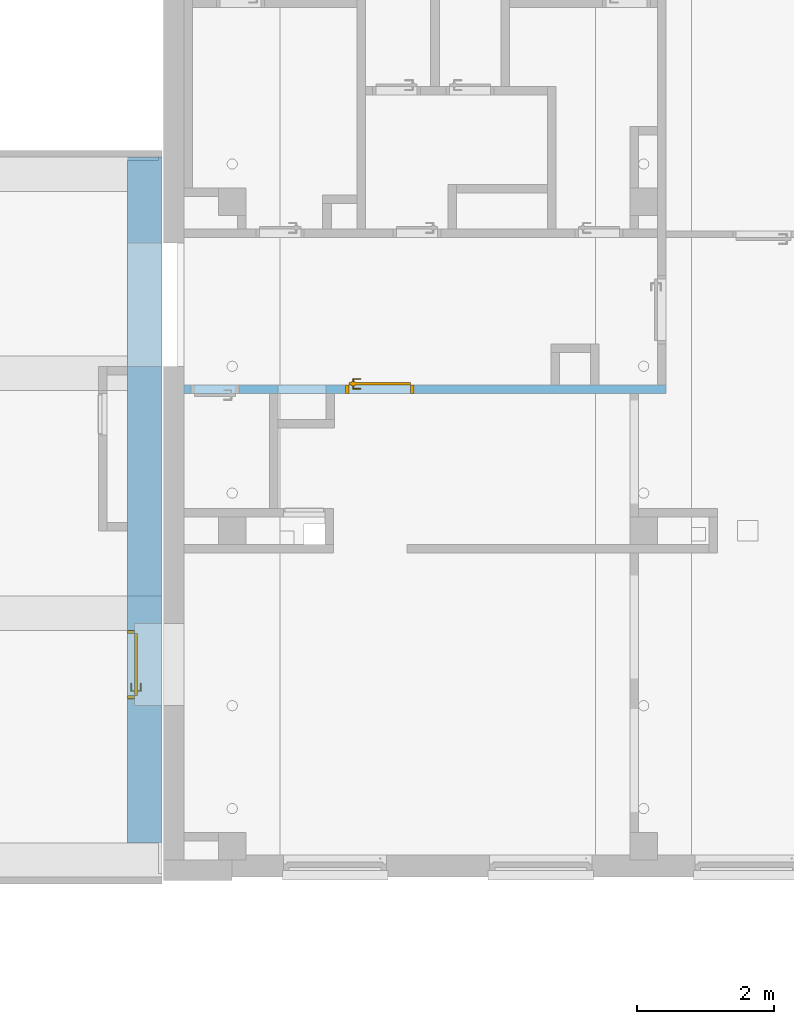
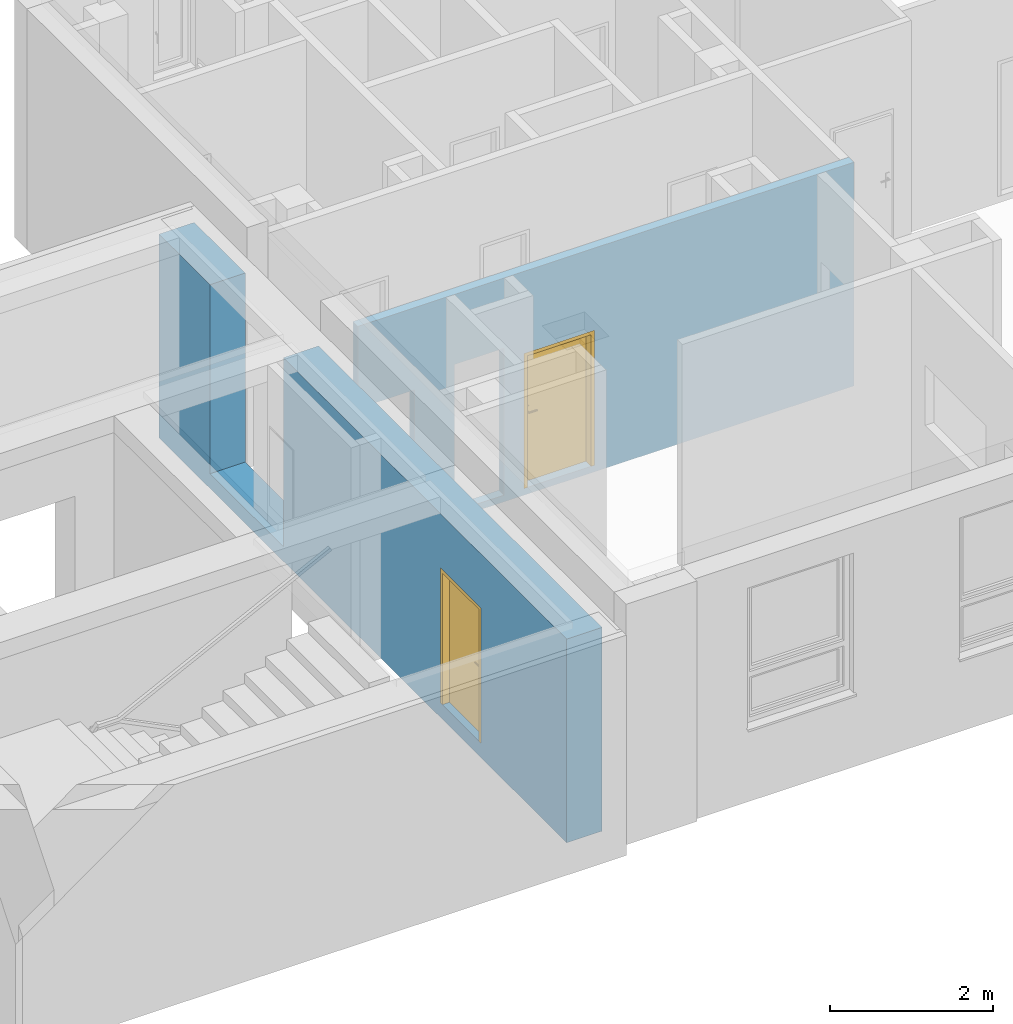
# One storey, part 33 of 50: 2 doors, 1 wall, 5 openings, plus 1 element that does not belong to this part.
"""IFC4 building model written with IfcOpenShell, lengths in metres."""

import ifcopenshell
import ifcopenshell.guid

model = None  # the IFC model being written
_history = None  # IfcOwnerHistory: only IFC2X3 demands one
_inside = {}  # id of a spatial element -> (the spatial element, [elements in it])
_under = {}  # id of a project, library or spatial element -> (it, [spatial elements below it])
_declared = {}  # id of a project -> (the project, [libraries it declares])
_typed = {}  # id of a type object -> (the type object, [elements of that type])
_made_of = {}  # id of a material, layer set ... -> (it, [elements and type objects made of it])


def new_model(schema):
    """Start an empty IFC model of exactly this schema.

    Asked for "IFC4X3", IfcOpenShell would pick the latest addendum, in which some entities
    have other attributes; the version numbers below select the first issue.
    IFC2X3 requires an IfcOwnerHistory on every rooted entity: one is made here for all.
    """
    global model, _history
    if schema == "IFC4X3":
        model = ifcopenshell.file(schema_version=(4, 3, 0, 0))
    else:
        model = ifcopenshell.file(schema=schema)
    _inside.clear()
    _under.clear()
    _declared.clear()
    _typed.clear()
    _made_of.clear()
    _history = None
    if model.schema == "IFC2X3":
        org = make("IfcOrganization", Name="unknown")
        user = make(
            "IfcPersonAndOrganization",
            ThePerson=make("IfcPerson", FamilyName="unknown"),
            TheOrganization=org,
        )
        app = make(
            "IfcApplication",
            ApplicationDeveloper=org,
            Version="unknown",
            ApplicationFullName="unknown",
            ApplicationIdentifier="unknown",
        )
        _history = make(
            "IfcOwnerHistory",
            OwningUser=user,
            OwningApplication=app,
            ChangeAction="ADDED",
            CreationDate=0,
        )
    return model


def make(cls, **values):
    """One entity of the class cls with the attributes given. An attribute that is None is left unset."""
    return model.create_entity(
        cls, **{name: value for name, value in values.items() if value is not None}
    )


def entity(cls, *values):
    """Any entity or typed value of the class cls, its attributes in the order of the schema. None: left unset."""
    e = model.create_entity(cls)
    for i, value in enumerate(values):
        if value is not None:
            e[i] = value
    return e


def rooted(cls, **values):
    """An entity with a GlobalId (a new one), such as an element, a storey or a relation."""
    return make(cls, GlobalId=ifcopenshell.guid.new(), OwnerHistory=_history, **values)


def si_unit(unit_type, name, prefix=None):
    """IfcSIUnit, for example si_unit("LENGTHUNIT", "METRE", prefix="MILLI")."""
    return make("IfcSIUnit", UnitType=unit_type, Prefix=prefix, Name=name)


def converted_unit(unit_type, name, factor, base, dimensions=None, offset=None):
    """IfcConversionBasedUnit, such as the inch: factor (a typed value) times the base unit."""
    return make(
        "IfcConversionBasedUnit"
        if offset is None
        else "IfcConversionBasedUnitWithOffset",
        ConversionOffset=offset,
        Dimensions=None
        if dimensions is None
        else entity("IfcDimensionalExponents", *dimensions),
        UnitType=unit_type,
        Name=name,
        ConversionFactor=make(
            "IfcMeasureWithUnit", ValueComponent=factor, UnitComponent=base
        ),
    )


def derived_unit(unit_type, elements):
    """IfcDerivedUnit: a product of units, each with its exponent."""
    return make(
        "IfcDerivedUnit",
        Elements=[
            make("IfcDerivedUnitElement", Unit=unit, Exponent=power)
            for unit, power in elements
        ],
        UnitType=unit_type,
    )


def assignment(units):
    """IfcUnitAssignment: the units of a project."""
    return None if units is None else make("IfcUnitAssignment", Units=units)


def point(xyz):
    """IfcCartesianPoint."""
    return None if xyz is None else make("IfcCartesianPoint", Coordinates=xyz)


def direction(xyz):
    """IfcDirection."""
    return None if xyz is None else make("IfcDirection", DirectionRatios=xyz)


def frame(location, z_axis=None, x_axis=None):
    """IfcAxis2Placement3D, a coordinate frame: its origin and axes. An axis left out is left unset."""
    return make(
        "IfcAxis2Placement3D",
        Location=point(location),
        Axis=direction(z_axis),
        RefDirection=direction(x_axis),
    )


def frame_2d(location, x_axis=None):
    """IfcAxis2Placement2D, a coordinate frame in the plane: its origin and x axis."""
    return make(
        "IfcAxis2Placement2D", Location=point(location), RefDirection=direction(x_axis)
    )


def origin():
    """The frame at (0, 0, 0) with its axes left unset."""
    return frame((0.0, 0.0, 0.0))


def origin_with_axes():
    """The frame at (0, 0, 0) with the z axis (0, 0, 1) and the x axis (1, 0, 0) written out."""
    return frame((0.0, 0.0, 0.0), z_axis=(0.0, 0.0, 1.0), x_axis=(1.0, 0.0, 0.0))


def place(relative_to, where):
    """IfcLocalPlacement: puts the frame where relative to a parent placement (None: the world)."""
    return make(
        "IfcLocalPlacement", PlacementRelTo=relative_to, RelativePlacement=where
    )


def context(
    kind, dimensions, precision=None, world=None, true_north=None, identifier=None
):
    """IfcGeometricRepresentationContext, for example the 3D "Model" context."""
    return make(
        "IfcGeometricRepresentationContext",
        ContextIdentifier=identifier,
        ContextType=kind,
        CoordinateSpaceDimension=dimensions,
        Precision=precision,
        WorldCoordinateSystem=world,
        TrueNorth=true_north,
    )


def subcontext(parent, identifier, kind, view, scale=None):
    """IfcGeometricRepresentationSubContext, for example "Body" below "Model"."""
    return make(
        "IfcGeometricRepresentationSubContext",
        ContextIdentifier=identifier,
        ContextType=kind,
        ParentContext=parent,
        TargetScale=scale,
        TargetView=view,
    )


def project(units=None, contexts=None):
    """IfcProject with its units and contexts."""
    return rooted(
        "IfcProject",
        Name="project",
        RepresentationContexts=contexts,
        UnitsInContext=assignment(units),
    )


def spatial(cls, under=None, at=None, **own):
    """A site, building, storey or space (cls), placed at a placement, below another one or the project."""
    s = rooted(cls, ObjectPlacement=at, **own)
    if under is not None:
        _under.setdefault(under.id(), (under, []))[1].append(s)
    return s


def polyline(points):
    """IfcPolyline through the points."""
    return make("IfcPolyline", Points=[point(p) for p in points])


def profile(cls, at=None, kind="AREA", **sizes):
    """A parametric profile (cls). Its sizes go by their IFC names, for example OverallWidth=200.0."""
    return make(cls, ProfileType=kind, Position=at, **sizes)


def rectangle(**sizes):
    """IfcRectangleProfileDef."""
    return profile("IfcRectangleProfileDef", **sizes)


def outline(outer, holes=None, kind="AREA"):
    """IfcArbitraryClosedProfileDef: a profile drawn as a closed curve; with holes, ...WithVoids."""
    if holes is None:
        return make("IfcArbitraryClosedProfileDef", ProfileType=kind, OuterCurve=outer)
    return make(
        "IfcArbitraryProfileDefWithVoids",
        ProfileType=kind,
        OuterCurve=outer,
        InnerCurves=holes,
    )


def extrude(swept, where, along, depth):
    """IfcExtrudedAreaSolid: the profile swept, set in the frame where, extruded along a direction by depth."""
    return make(
        "IfcExtrudedAreaSolid",
        SweptArea=swept,
        Position=where,
        ExtrudedDirection=direction(along),
        Depth=depth,
    )


def faces_of(points, faces, orient=None, outer=None):
    """IfcFace entities. A face is a list of loops; a loop is a list of indices into points, from 0.

    orient and outer hold one flag for each loop. By default every Orientation is true, the
    first loop of a face is its IfcFaceOuterBound and the others are IfcFaceBound.
    """
    made = []
    for i, loops in enumerate(faces):
        bounds = []
        for j, loop in enumerate(loops):
            is_outer = j == 0 if outer is None else outer[i][j]
            bounds.append(
                make(
                    "IfcFaceOuterBound" if is_outer else "IfcFaceBound",
                    Bound=make("IfcPolyLoop", Polygon=[points[k] for k in loop]),
                    Orientation=True if orient is None else orient[i][j],
                )
            )
        made.append(make("IfcFace", Bounds=bounds))
    return made


def closed_shell(faces, orient=None, outer=None):
    """The faces of one IfcClosedShell. faceted_brep and surface_model build it on their shared points."""
    return ("IfcClosedShell", faces, orient, outer)


def open_shell(faces, orient=None, outer=None):
    """The faces of one IfcOpenShell. surface_model builds it on its shared points."""
    return ("IfcOpenShell", faces, orient, outer)


def faceted_brep(points, faces, orient=None, outer=None, voids=None):
    """IfcFacetedBrep: a solid bounded by flat faces; with voids (closed shells), ...WithVoids."""
    shared = [point(p) for p in points]
    hull = make("IfcClosedShell", CfsFaces=faces_of(shared, faces, orient, outer))
    if voids is None:
        return make("IfcFacetedBrep", Outer=hull)
    return make(
        "IfcFacetedBrepWithVoids",
        Outer=hull,
        Voids=[
            make(cls, CfsFaces=faces_of(shared, fs, o, b)) for cls, fs, o, b in voids
        ],
    )


def surface_model(cls, points, shells):
    """IfcFaceBasedSurfaceModel or IfcShellBasedSurfaceModel (cls): surfaces that need not close."""
    shared = [point(p) for p in points]
    made = [make(c, CfsFaces=faces_of(shared, fs, o, b)) for c, fs, o, b in shells]
    if cls == "IfcFaceBasedSurfaceModel":
        return make(cls, FbsmFaces=made)
    return make(cls, SbsmBoundary=made)


def shape(context_of_items, identifier, shape_type, items):
    """IfcShapeRepresentation: the items that make up one representation, for example the "Body"."""
    return make(
        "IfcShapeRepresentation",
        ContextOfItems=context_of_items,
        RepresentationIdentifier=identifier,
        RepresentationType=shape_type,
        Items=items,
    )


def source(mapping_origin, context_of_items, identifier, shape_type, items):
    """IfcRepresentationMap: a shape defined once, which mapped items show again and again."""
    return make(
        "IfcRepresentationMap",
        MappingOrigin=mapping_origin,
        MappedRepresentation=shape(context_of_items, identifier, shape_type, items),
    )


def transform(
    local_origin,
    x_axis=None,
    y_axis=None,
    z_axis=None,
    scale=None,
    scale2=None,
    scale3=None,
    uniform=True,
):
    """IfcCartesianTransformationOperator3D, or its non-uniform kind. x_axis, y_axis, z_axis: its Axis1, 2, 3."""
    if uniform:
        return make(
            "IfcCartesianTransformationOperator3D",
            Axis1=direction(x_axis),
            Axis2=direction(y_axis),
            LocalOrigin=point(local_origin),
            Scale=scale,
            Axis3=direction(z_axis),
        )
    return make(
        "IfcCartesianTransformationOperator3DnonUniform",
        Axis1=direction(x_axis),
        Axis2=direction(y_axis),
        LocalOrigin=point(local_origin),
        Scale=scale,
        Axis3=direction(z_axis),
        Scale2=scale2,
        Scale3=scale3,
    )


def mapped(mapping_source, mapping_target):
    """IfcMappedItem: shows the shape of a source again, moved by a transform."""
    return make(
        "IfcMappedItem", MappingSource=mapping_source, MappingTarget=mapping_target
    )


def material(Name=None, Category=None):
    """IfcMaterial."""
    return make("IfcMaterial", Name=Name, Category=Category)


def layer(
    of_material, thickness, ventilated=None, Name=None, Category=None, Priority=None
):
    """IfcMaterialLayer: one layer of a wall or slab, of a material (None: an air gap)."""
    return make(
        "IfcMaterialLayer",
        Material=of_material,
        LayerThickness=thickness,
        IsVentilated=ventilated,
        Name=Name,
        Category=Category,
        Priority=Priority,
    )


def layer_set(layers, Name=None):
    """IfcMaterialLayerSet."""
    return make("IfcMaterialLayerSet", MaterialLayers=layers, LayerSetName=Name)


def layer_usage(for_layer_set, set_direction, sense, offset, extent=None):
    """IfcMaterialLayerSetUsage: how a layer set lies in its element."""
    return make(
        "IfcMaterialLayerSetUsage",
        ForLayerSet=for_layer_set,
        LayerSetDirection=set_direction,
        DirectionSense=sense,
        OffsetFromReferenceLine=offset,
        ReferenceExtent=extent,
    )


def made_of(thing, what):
    """Note that an element or type object is made of a material, layer set ...; save() writes the relation."""
    if what is not None:
        _made_of.setdefault(what.id(), (what, []))[1].append(thing)
    return thing


def type_object(cls, material=None, **own):
    """A type object (cls), such as IfcWallType, which elements share."""
    return made_of(rooted(cls, **own), material)


def element(
    cls,
    number,
    at=None,
    inside=None,
    cuts=None,
    type_object=None,
    material=None,
    context=None,
    identifier="Body",
    shape_type=None,
    held_by="IfcProductDefinitionShape",
    body=None,
    shapes=None,
    **own,
):
    """One element of the class cls, such as IfcWall. Its Tag is "e" and its number.

    at: its placement. inside: the storey or other place that contains it. cuts: it is an
    opening in that element (IfcRelVoidsElement). A single representation is given by context,
    identifier, shape_type and body (its items); several are given by shapes. held_by: the class
    of the entity that holds the representations. save() writes the other relations.
    """
    e = rooted(cls, Tag="e%d" % number, ObjectPlacement=at, **own)
    if body is not None:
        shapes = [shape(context, identifier, shape_type, body)]
    if shapes is not None:
        e.Representation = make(held_by, Representations=shapes)
    if inside is not None:
        _inside.setdefault(inside.id(), (inside, []))[1].append(e)
    if cuts is not None:
        rooted(
            "IfcRelVoidsElement", RelatingBuildingElement=cuts, RelatedOpeningElement=e
        )
    if type_object is not None:
        _typed.setdefault(type_object.id(), (type_object, []))[1].append(e)
    return made_of(e, material)


def fill(opening, filler):
    """IfcRelFillsElement: the door or window that sits in an opening."""
    return rooted(
        "IfcRelFillsElement",
        RelatingOpeningElement=opening,
        RelatedBuildingElement=filler,
    )


def aggregate(whole, parts):
    """IfcRelAggregates: a whole, such as a stair, and the parts it consists of."""
    return rooted("IfcRelAggregates", RelatingObject=whole, RelatedObjects=parts)


def save(model, path):
    """Write the relations noted so far, then the file.

    IfcRelAggregates (storeys below a building ...), IfcRelContainedInSpatialStructure (elements
    in a storey), IfcRelDefinesByType, IfcRelAssociatesMaterial and IfcRelDeclares: one each for
    every whole, place, type object, material and project.
    """
    for whole, parts in _under.values():
        aggregate(whole, parts)
    for where, things in _inside.values():
        rooted(
            "IfcRelContainedInSpatialStructure",
            RelatedElements=things,
            RelatingStructure=where,
        )
    for kind, things in _typed.values():
        rooted("IfcRelDefinesByType", RelatedObjects=things, RelatingType=kind)
    for what, things in _made_of.values():
        rooted("IfcRelAssociatesMaterial", RelatedObjects=things, RelatingMaterial=what)
    for by, libraries in _declared.values():
        rooted("IfcRelDeclares", RelatingContext=by, RelatedDefinitions=libraries)
    model.write(path)


model = new_model("IFC4")

# Units and contexts
model_context = context("Model", 3, precision=1e-05, world=origin())
body_context = subcontext(model_context, "Body", "Model", "MODEL_VIEW")
ifc_project = project(units=[si_unit("LENGTHUNIT", "METRE"), si_unit("AREAUNIT", "SQUARE_METRE"), si_unit("VOLUMEUNIT", "CUBIC_METRE"), si_unit("MASSUNIT", "GRAM", prefix="KILO"), converted_unit("PLANEANGLEUNIT", "DEGREE", entity("IfcPlaneAngleMeasure", 0.0174532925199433), si_unit("PLANEANGLEUNIT", "RADIAN"), dimensions=[0, 0, 0, 0, 0, 0, 0]), derived_unit("THERMALTRANSMITTANCEUNIT", [(si_unit("POWERUNIT", "WATT"), 1), (si_unit("THERMODYNAMICTEMPERATUREUNIT", "KELVIN"), -1), (si_unit("LENGTHUNIT", "METRE"), -2)]), derived_unit("VOLUMETRICFLOWRATEUNIT", [(si_unit("LENGTHUNIT", "METRE"), 3), (converted_unit("TIMEUNIT", "hour", entity("IfcTimeMeasure", 3600.0), si_unit("TIMEUNIT", "SECOND"), dimensions=[0, 0, 1, 0, 0, 0, 0]), -1), (si_unit("LENGTHUNIT", "METRE"), -1)])], contexts=[model_context])

# Site, building, storey
site_placement = place(None, origin())
site = spatial("IfcSite", under=ifc_project, at=site_placement, Name="3. ASŘ", CompositionType="ELEMENT")
building_placement = place(site_placement, origin())
building = spatial("IfcBuilding", under=site, at=building_placement, Name="Pavilon C", CompositionType="ELEMENT")
storey_placement = place(building_placement, frame((0.0, 0.0, 3.6)))
storey = spatial("IfcBuildingStorey", under=building, at=storey_placement, Name="Půdorys 2.NP", CompositionType="ELEMENT", Elevation=3.6)

# Wall, openings, door
ifc_material_1 = material(Name="ZDIVO Z CDm")
wall_1_placement = place(storey_placement, frame((-1.525, 0.850000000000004, -0.22)))
wall_1 = element("IfcWall", 1, at=wall_1_placement, inside=storey, material=ifc_material_1, Name="ZDIVO Z CDm", context=body_context, shape_type="Brep", body=[
    faceted_brep([(0.500000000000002, 1.99999999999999, 2.32), (0.500000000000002, 3.19999999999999, 2.32), (0.100000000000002, 3.19999999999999, 2.32), (0.100000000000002, 1.99999999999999, 2.32), (0.100000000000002, 1.99999999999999, 0.22), (0.500000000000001, 1.99999999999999, 0.22), (0.500000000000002, 3.19999999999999, 0.22), (0.100000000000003, 3.19999999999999, 0.22), (0.100000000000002, 2.09999999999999, 2.24), (0.100000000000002, 2.09999999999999, 0.22), (0.100000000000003, 3.09999999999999, 0.22), (0.100000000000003, 3.09999999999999, 2.24), (0.500000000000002, 2.09999999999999, 2.24), (0.500000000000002, 2.09999999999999, 0.22), (0.500000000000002, 3.09999999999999, 2.24), (0.500000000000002, 3.09999999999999, 0.22), (0.0, 9.09494701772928e-16, 0.0), (7.27595761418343e-15, 10.0, 0.0), (7.27595761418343e-15, 10.0, 3.05), (0.0, 9.09494701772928e-16, 3.05), (0.500000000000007, 10.0, 0.0), (0.500000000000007, 10.0, 3.05), (0.5, 9.09494701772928e-16, 0.0), (0.5, 9.09494701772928e-16, 3.05)], [[[0, 1, 2, 3]], [[4, 5, 0, 3]], [[6, 7, 2, 1]], [[8, 9, 4, 3, 2, 7, 10, 11]], [[12, 13, 9, 8]], [[5, 4, 9, 13]], [[14, 12, 8, 11]], [[11, 10, 15, 14]], [[7, 6, 15, 10]], [[16, 17, 18, 19]], [[17, 20, 21, 18]], [[20, 22, 23, 21], [5, 13, 12, 14, 15, 6, 1, 0]], [[22, 16, 19, 23]], [[23, 19, 18, 21]], [[16, 22, 20, 17]]], orient=[[False], [False], [False], [False], [False], [False], [False], [False], [False], [False], [False], [False, False], [False], [False], [False]]),
])
opening_1_placement = place(wall_1_placement, frame((2.27373675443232e-15, 3.09999999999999, 0.22), z_axis=(1.0, -9.09494701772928e-16, 0.0), x_axis=(0.0, 0.0, 1.0)))
opening_1 = element("IfcOpeningElement", 2, at=opening_1_placement, cuts=wall_1, Name="Dveřní otvor", ObjectType="Opening", context=body_context, shape_type="SweptSolid", body=[
    extrude(outline(polyline([(0.0, 1.0), (2.02, 1.0), (2.02, 0.0), (0.0, 0.0), (0.0, 1.0)])), origin_with_axes(), (0.0, 0.0, 1.0), 0.5),
])
opening_2_placement = place(wall_1_placement, frame((6.3664629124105e-15, 8.74999999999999, 0.22), z_axis=(1.0, 0.0, 0.0), x_axis=(0.0, 0.0, 1.0)))
element("IfcOpeningElement", 3, at=opening_2_placement, cuts=wall_1, Name="Dveřní otvor", ObjectType="Opening", context=body_context, shape_type="SweptSolid", body=[
    extrude(outline(polyline([(0.0, 1.8), (3.25, 1.8), (3.25, 0.0), (0.0, 0.0), (0.0, 1.8)])), origin_with_axes(), (0.0, 0.0, 1.0), 0.5),
])
door_type_1 = type_object("IfcDoorType", Name="D101", OperationType="NOTDEFINED", ParameterTakesPrecedence=False, PredefinedType="DOOR")
shared_shape_1 = source(origin_with_axes(), body_context, "Body", "SurfaceModel", [
    surface_model("IfcShellBasedSurfaceModel", [(0.0, 0.100000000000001, 2.02), (0.0, 0.100000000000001, -6.12323399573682e-18), (0.05, 0.100000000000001, -6.12323399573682e-18), (0.05, 0.100000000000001, 2.02), (0.0, 0.0, 6.12323399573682e-18), (0.0, 2.41584530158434e-16, 2.02), (0.05, 2.41584530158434e-16, 2.02), (0.05, 0.0, 6.12323399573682e-18)], [closed_shell([[[0, 1, 2, 3]], [[4, 5, 6, 7]], [[1, 0, 5, 4]], [[2, 1, 4, 7]], [[3, 2, 7, 6]], [[0, 3, 6, 5]]], orient=[[False], [False], [False], [False], [False], [False]])]),
    surface_model("IfcShellBasedSurfaceModel", [(0.950000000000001, 0.100000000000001, 2.02), (0.950000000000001, 0.100000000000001, -6.12323399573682e-18), (1.0, 0.100000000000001, -6.12323399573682e-18), (1.0, 0.100000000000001, 2.02), (0.950000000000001, 0.0, 6.12323399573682e-18), (0.950000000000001, 2.41584530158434e-16, 2.02), (1.0, 2.41584530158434e-16, 2.02), (1.0, 0.0, 6.12323399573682e-18)], [closed_shell([[[0, 1, 2, 3]], [[4, 5, 6, 7]], [[1, 0, 5, 4]], [[2, 1, 4, 7]], [[3, 2, 7, 6]], [[0, 3, 6, 5]]], orient=[[False], [False], [False], [False], [False], [False]])]),
    surface_model("IfcShellBasedSurfaceModel", [(0.05, 0.100000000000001, 2.02), (0.05, 0.100000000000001, 1.97), (0.95, 0.100000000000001, 1.97), (0.95, 0.100000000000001, 2.02), (0.05, 2.41584530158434e-16, 1.97), (0.05, 2.41584530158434e-16, 2.02), (0.95, 2.41584530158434e-16, 2.02), (0.95, 2.41584530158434e-16, 1.97)], [closed_shell([[[0, 1, 2, 3]], [[4, 5, 6, 7]], [[1, 0, 5, 4]], [[2, 1, 4, 7]], [[3, 2, 7, 6]], [[0, 3, 6, 5]]], orient=[[False], [False], [False], [False], [False], [False]])]),
    surface_model("IfcShellBasedSurfaceModel", [(0.05, 0.140000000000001, 1.97), (0.05, 0.140000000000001, -1.10218211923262e-17), (0.95, 0.140000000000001, -1.10218211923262e-17), (0.95, 0.140000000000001, 1.97), (0.05, 0.100000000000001, -6.12323399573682e-18), (0.05, 0.100000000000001, 1.97), (0.95, 0.100000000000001, 1.97), (0.95, 0.100000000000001, -6.12323399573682e-18)], [closed_shell([[[0, 1, 2, 3]], [[4, 5, 6, 7]], [[1, 0, 5, 4]], [[2, 1, 4, 7]], [[3, 2, 7, 6]], [[0, 3, 6, 5]]], orient=[[False], [False], [False], [False], [False], [False]])]),
    surface_model("IfcShellBasedSurfaceModel", [(0.86, 0.100000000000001, 1.125), (0.86, 0.100000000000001, 0.91), (0.91, 0.100000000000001, 0.91), (0.91, 0.100000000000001, 1.125), (0.86, 0.090000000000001, 0.91), (0.86, 0.0900000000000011, 1.125), (0.91, 0.0900000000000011, 1.125), (0.91, 0.090000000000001, 0.91)], [closed_shell([[[0, 1, 2, 3]], [[4, 5, 6, 7]], [[1, 0, 5, 4]], [[2, 1, 4, 7]], [[3, 2, 7, 6]], [[0, 3, 6, 5]]], orient=[[False], [False], [False], [False], [False], [False]])]),
    surface_model("IfcShellBasedSurfaceModel", [(0.885, 0.090000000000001, 1.06), (0.88, 0.090000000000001, 1.05866025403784), (0.876339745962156, 0.090000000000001, 1.055), (0.875, 0.090000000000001, 1.05), (0.876339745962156, 0.090000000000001, 1.045), (0.88, 0.090000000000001, 1.04133974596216), (0.885, 0.090000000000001, 1.04), (0.89, 0.090000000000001, 1.04133974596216), (0.893660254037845, 0.090000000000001, 1.045), (0.895, 0.090000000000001, 1.05), (0.893660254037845, 0.090000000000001, 1.055), (0.89, 0.090000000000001, 1.05866025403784), (0.89, 0.0450000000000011, 1.05866025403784), (0.885, 0.0500000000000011, 1.06), (0.893660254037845, 0.0413397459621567, 1.055), (0.895, 0.0400000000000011, 1.05), (0.893660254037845, 0.0413397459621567, 1.045), (0.89, 0.0450000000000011, 1.04133974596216), (0.885, 0.0500000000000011, 1.04), (0.88, 0.0550000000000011, 1.04133974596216), (0.876339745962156, 0.0586602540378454, 1.045), (0.875, 0.0600000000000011, 1.05), (0.876339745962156, 0.0586602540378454, 1.055), (0.88, 0.0550000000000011, 1.05866025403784), (0.77, 0.045000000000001, 1.05866025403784), (0.77, 0.050000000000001, 1.06), (0.77, 0.0413397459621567, 1.055), (0.77, 0.040000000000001, 1.05), (0.77, 0.0413397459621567, 1.045), (0.77, 0.045000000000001, 1.04133974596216), (0.77, 0.050000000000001, 1.04), (0.77, 0.055000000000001, 1.04133974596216), (0.77, 0.0586602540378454, 1.045), (0.77, 0.060000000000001, 1.05), (0.77, 0.0586602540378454, 1.055), (0.77, 0.0550000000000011, 1.05866025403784)], [open_shell([[[0, 1, 2, 3, 4, 5, 6, 7, 8, 9, 10, 11]], [[0, 11, 12, 13]], [[11, 10, 14, 12]], [[10, 9, 15, 14]], [[9, 8, 16, 15]], [[8, 7, 17, 16]], [[7, 6, 18, 17]], [[6, 5, 19, 18]], [[5, 4, 20, 19]], [[4, 3, 21, 20]], [[3, 2, 22, 21]], [[2, 1, 23, 22]], [[1, 0, 13, 23]], [[13, 12, 24, 25]], [[12, 14, 26, 24]], [[14, 15, 27, 26]], [[15, 16, 28, 27]], [[16, 17, 29, 28]], [[17, 18, 30, 29]], [[18, 19, 31, 30]], [[19, 20, 32, 31]], [[20, 21, 33, 32]], [[21, 22, 34, 33]], [[22, 23, 35, 34]], [[23, 13, 25, 35]]], orient=[[False], [False], [False], [False], [False], [False], [False], [False], [False], [False], [False], [False], [False], [False], [False], [False], [False], [False], [False], [False], [False], [False], [False], [False], [False]])]),
    surface_model("IfcShellBasedSurfaceModel", [(0.86, 0.140000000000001, 1.125), (0.91, 0.140000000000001, 1.125), (0.91, 0.140000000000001, 0.91), (0.86, 0.140000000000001, 0.91), (0.86, 0.150000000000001, 0.91), (0.91, 0.150000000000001, 0.91), (0.91, 0.150000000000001, 1.125), (0.86, 0.150000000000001, 1.125)], [closed_shell([[[0, 1, 2, 3]], [[4, 5, 6, 7]], [[3, 4, 7, 0]], [[2, 5, 4, 3]], [[1, 6, 5, 2]], [[0, 7, 6, 1]]], orient=[[False], [False], [False], [False], [False], [False]])]),
    surface_model("IfcShellBasedSurfaceModel", [(0.885, 0.150000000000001, 1.06), (0.89, 0.150000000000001, 1.05866025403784), (0.893660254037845, 0.150000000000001, 1.055), (0.895, 0.150000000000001, 1.05), (0.893660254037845, 0.150000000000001, 1.045), (0.89, 0.150000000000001, 1.04133974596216), (0.885, 0.150000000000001, 1.04), (0.88, 0.150000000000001, 1.04133974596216), (0.876339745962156, 0.150000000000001, 1.045), (0.875, 0.150000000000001, 1.05), (0.876339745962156, 0.150000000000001, 1.055), (0.88, 0.150000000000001, 1.05866025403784), (0.885, 0.190000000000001, 1.06), (0.89, 0.195000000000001, 1.05866025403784), (0.893660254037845, 0.198660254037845, 1.055), (0.895, 0.200000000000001, 1.05), (0.893660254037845, 0.198660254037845, 1.045), (0.89, 0.195000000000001, 1.04133974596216), (0.885, 0.190000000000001, 1.04), (0.88, 0.185000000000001, 1.04133974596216), (0.876339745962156, 0.181339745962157, 1.045), (0.875, 0.180000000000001, 1.05), (0.876339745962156, 0.181339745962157, 1.055), (0.88, 0.185000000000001, 1.05866025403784), (0.77, 0.190000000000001, 1.06), (0.77, 0.195000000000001, 1.05866025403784), (0.77, 0.198660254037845, 1.055), (0.77, 0.200000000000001, 1.05), (0.77, 0.198660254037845, 1.045), (0.77, 0.195000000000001, 1.04133974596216), (0.77, 0.190000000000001, 1.04), (0.77, 0.185000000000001, 1.04133974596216), (0.77, 0.181339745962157, 1.045), (0.77, 0.180000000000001, 1.05), (0.77, 0.181339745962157, 1.055), (0.77, 0.185000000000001, 1.05866025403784)], [open_shell([[[0, 1, 2, 3, 4, 5, 6, 7, 8, 9, 10, 11]], [[0, 12, 13, 1]], [[1, 13, 14, 2]], [[2, 14, 15, 3]], [[3, 15, 16, 4]], [[4, 16, 17, 5]], [[5, 17, 18, 6]], [[6, 18, 19, 7]], [[7, 19, 20, 8]], [[8, 20, 21, 9]], [[9, 21, 22, 10]], [[10, 22, 23, 11]], [[11, 23, 12, 0]], [[12, 24, 25, 13]], [[13, 25, 26, 14]], [[14, 26, 27, 15]], [[15, 27, 28, 16]], [[16, 28, 29, 17]], [[17, 29, 30, 18]], [[18, 30, 31, 19]], [[19, 31, 32, 20]], [[20, 32, 33, 21]], [[21, 33, 34, 22]], [[22, 34, 35, 23]], [[23, 35, 24, 12]]], orient=[[False], [False], [False], [False], [False], [False], [False], [False], [False], [False], [False], [False], [False], [False], [False], [False], [False], [False], [False], [False], [False], [False], [False], [False], [False]])]),
])
door_1_placement = place(opening_1_placement, frame((0.0, 4.54747350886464e-16, -2.27373675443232e-16), z_axis=(1.0, 0.0, 0.0), x_axis=(0.0, 1.0, 1.03195938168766e-15)))
door_1 = element("IfcDoor", 4, at=door_1_placement, inside=storey, type_object=door_type_1, Name="D101", OverallHeight=2.02, OverallWidth=1.0, context=body_context, shape_type="MappedRepresentation", body=[
    mapped(shared_shape_1, transform((0.0, 0.0, 0.0), x_axis=(1.0, 0.0, 0.0), y_axis=(0.0, 1.0, 0.0), z_axis=(0.0, 0.0, 1.0), scale=1.0)),
])
fill(opening_1, door_1)

ifc_material_2 = material(Name="ZDIVO Z CDm")
ifc_layer = layer(ifc_material_2, 0.125)
ifc_layer_set = layer_set([ifc_layer])
ifc_layer_usage = layer_usage(ifc_layer_set, "AXIS2", "POSITIVE", 0.0)
wall_2_placement = place(storey_placement, frame((6.32500000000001, 7.525, -0.1), z_axis=(0.0, 0.0, 1.0), x_axis=(-1.0, 0.0, 0.0)))
wall_2 = element("IfcWall", 5, at=wall_2_placement, inside=storey, material=ifc_layer_usage, Name="ZDIVO Z CDm", context=body_context, shape_type="SweptSolid", body=[
    extrude(rectangle(XDim=7.02500000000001, YDim=0.125, at=frame_2d((3.5125, 0.0625), x_axis=(1.0, 0.0))), origin_with_axes(), (0.0, 0.0, 1.0), 3.35),
])
opening_3_placement = place(wall_2_placement, frame((3.67499999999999, 0.0, 0.1), z_axis=(0.0, 1.0, 0.0), x_axis=(0.0, 0.0, 1.0)))
opening_3 = element("IfcOpeningElement", 6, at=opening_3_placement, cuts=wall_2, Name="Dveřní otvor", ObjectType="Opening", context=body_context, shape_type="SweptSolid", body=[
    extrude(outline(polyline([(0.0, 1.0), (2.02, 1.0), (2.02, 0.0), (0.0, 0.0), (0.0, 1.0)])), origin_with_axes(), (0.0, 0.0, 1.0), 0.125),
])
opening_4_placement = place(wall_2_placement, frame((4.95500000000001, 0.0, 0.1), z_axis=(0.0, 1.0, 0.0), x_axis=(0.0, 0.0, 1.0)))
element("IfcOpeningElement", 7, at=opening_4_placement, cuts=wall_2, Name="Dveřní otvor", ObjectType="Opening", context=body_context, shape_type="SweptSolid", body=[
    extrude(outline(polyline([(0.0, 0.7), (2.2, 0.7), (2.2, 0.0), (0.0, 0.0), (0.0, 0.7)])), origin_with_axes(), (0.0, 0.0, 1.0), 0.125),
])
opening_5_placement = place(wall_2_placement, frame((6.92500000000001, 0.125, 0.1), z_axis=(0.0, -1.0, 0.0), x_axis=(0.0, 0.0, 1.0)))
element("IfcOpeningElement", 8, at=opening_5_placement, cuts=wall_2, Name="Dveřní otvor", ObjectType="Opening", context=body_context, shape_type="SweptSolid", body=[
    extrude(outline(polyline([(0.0, 0.7), (2.02, 0.7), (2.02, 0.0), (0.0, 0.0), (0.0, 0.7)])), origin_with_axes(), (0.0, 0.0, 1.0), 0.125),
])
door_type_2 = type_object("IfcDoorType", Name="D101", OperationType="NOTDEFINED", ParameterTakesPrecedence=False, PredefinedType="DOOR")
shared_shape_2 = source(origin_with_axes(), body_context, "Body", "SurfaceModel", [
    surface_model("IfcShellBasedSurfaceModel", [(0.0, 0.125, 2.02), (0.0, 0.125, -7.65404249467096e-18), (0.05, 0.125, -7.65404249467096e-18), (0.05, 0.125, 2.02), (0.0, 0.0, 7.65404249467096e-18), (0.0, 2.41584530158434e-16, 2.02), (0.05, 2.41584530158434e-16, 2.02), (0.05, 0.0, 7.65404249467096e-18)], [closed_shell([[[0, 1, 2, 3]], [[4, 5, 6, 7]], [[1, 0, 5, 4]], [[2, 1, 4, 7]], [[3, 2, 7, 6]], [[0, 3, 6, 5]]], orient=[[False], [False], [False], [False], [False], [False]])]),
    surface_model("IfcShellBasedSurfaceModel", [(0.95, 0.125, 2.02), (0.95, 0.125, -7.65404249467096e-18), (1.0, 0.125, -7.65404249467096e-18), (1.0, 0.125, 2.02), (0.95, 0.0, 7.65404249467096e-18), (0.95, 2.41584530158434e-16, 2.02), (1.0, 2.41584530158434e-16, 2.02), (1.0, 0.0, 7.65404249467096e-18)], [closed_shell([[[0, 1, 2, 3]], [[4, 5, 6, 7]], [[1, 0, 5, 4]], [[2, 1, 4, 7]], [[3, 2, 7, 6]], [[0, 3, 6, 5]]], orient=[[False], [False], [False], [False], [False], [False]])]),
    surface_model("IfcShellBasedSurfaceModel", [(0.05, 0.125, 2.02), (0.05, 0.125, 1.97), (0.95, 0.125, 1.97), (0.95, 0.125, 2.02), (0.05, 2.41584530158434e-16, 1.97), (0.05, 2.41584530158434e-16, 2.02), (0.95, 2.41584530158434e-16, 2.02), (0.95, 2.41584530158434e-16, 1.97)], [closed_shell([[[0, 1, 2, 3]], [[4, 5, 6, 7]], [[1, 0, 5, 4]], [[2, 1, 4, 7]], [[3, 2, 7, 6]], [[0, 3, 6, 5]]], orient=[[False], [False], [False], [False], [False], [False]])]),
    surface_model("IfcShellBasedSurfaceModel", [(0.05, 0.165, 1.97), (0.05, 0.165, -1.25526296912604e-17), (0.95, 0.165, -1.25526296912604e-17), (0.95, 0.165, 1.97), (0.05, 0.125, -7.65404249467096e-18), (0.05, 0.125, 1.97), (0.95, 0.125, 1.97), (0.95, 0.125, -7.65404249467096e-18)], [closed_shell([[[0, 1, 2, 3]], [[4, 5, 6, 7]], [[1, 0, 5, 4]], [[2, 1, 4, 7]], [[3, 2, 7, 6]], [[0, 3, 6, 5]]], orient=[[False], [False], [False], [False], [False], [False]])]),
    surface_model("IfcShellBasedSurfaceModel", [(0.86, 0.125, 1.125), (0.86, 0.125, 0.91), (0.91, 0.125, 0.91), (0.91, 0.125, 1.125), (0.86, 0.115, 0.91), (0.86, 0.115, 1.125), (0.91, 0.115, 1.125), (0.91, 0.115, 0.91)], [closed_shell([[[0, 1, 2, 3]], [[4, 5, 6, 7]], [[1, 0, 5, 4]], [[2, 1, 4, 7]], [[3, 2, 7, 6]], [[0, 3, 6, 5]]], orient=[[False], [False], [False], [False], [False], [False]])]),
    surface_model("IfcShellBasedSurfaceModel", [(0.885, 0.115, 1.06), (0.88, 0.115, 1.05866025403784), (0.876339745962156, 0.115, 1.055), (0.875, 0.115, 1.05), (0.876339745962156, 0.115, 1.045), (0.88, 0.115, 1.04133974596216), (0.885, 0.115, 1.04), (0.89, 0.115, 1.04133974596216), (0.893660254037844, 0.115, 1.045), (0.895, 0.115, 1.05), (0.893660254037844, 0.115, 1.055), (0.89, 0.115, 1.05866025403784), (0.89, 0.0700000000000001, 1.05866025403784), (0.885, 0.0750000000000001, 1.06), (0.893660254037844, 0.0663397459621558, 1.055), (0.895, 0.0650000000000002, 1.05), (0.893660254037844, 0.0663397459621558, 1.045), (0.89, 0.0700000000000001, 1.04133974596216), (0.885, 0.0750000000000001, 1.04), (0.88, 0.0800000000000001, 1.04133974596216), (0.876339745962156, 0.0836602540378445, 1.045), (0.875, 0.0850000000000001, 1.05), (0.876339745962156, 0.0836602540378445, 1.055), (0.88, 0.0800000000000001, 1.05866025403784), (0.77, 0.0700000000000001, 1.05866025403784), (0.77, 0.0750000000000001, 1.06), (0.77, 0.0663397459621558, 1.055), (0.77, 0.0650000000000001, 1.05), (0.77, 0.0663397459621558, 1.045), (0.77, 0.0700000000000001, 1.04133974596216), (0.77, 0.0750000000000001, 1.04), (0.77, 0.0800000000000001, 1.04133974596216), (0.77, 0.0836602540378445, 1.045), (0.77, 0.0850000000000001, 1.05), (0.77, 0.0836602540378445, 1.055), (0.77, 0.0800000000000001, 1.05866025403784)], [open_shell([[[0, 1, 2, 3, 4, 5, 6, 7, 8, 9, 10, 11]], [[0, 11, 12, 13]], [[11, 10, 14, 12]], [[10, 9, 15, 14]], [[9, 8, 16, 15]], [[8, 7, 17, 16]], [[7, 6, 18, 17]], [[6, 5, 19, 18]], [[5, 4, 20, 19]], [[4, 3, 21, 20]], [[3, 2, 22, 21]], [[2, 1, 23, 22]], [[1, 0, 13, 23]], [[13, 12, 24, 25]], [[12, 14, 26, 24]], [[14, 15, 27, 26]], [[15, 16, 28, 27]], [[16, 17, 29, 28]], [[17, 18, 30, 29]], [[18, 19, 31, 30]], [[19, 20, 32, 31]], [[20, 21, 33, 32]], [[21, 22, 34, 33]], [[22, 23, 35, 34]], [[23, 13, 25, 35]]], orient=[[False], [False], [False], [False], [False], [False], [False], [False], [False], [False], [False], [False], [False], [False], [False], [False], [False], [False], [False], [False], [False], [False], [False], [False], [False]])]),
    surface_model("IfcShellBasedSurfaceModel", [(0.86, 0.165, 1.125), (0.91, 0.165, 1.125), (0.91, 0.165, 0.91), (0.86, 0.165, 0.91), (0.86, 0.175, 0.91), (0.91, 0.175, 0.91), (0.91, 0.175, 1.125), (0.86, 0.175, 1.125)], [closed_shell([[[0, 1, 2, 3]], [[4, 5, 6, 7]], [[3, 4, 7, 0]], [[2, 5, 4, 3]], [[1, 6, 5, 2]], [[0, 7, 6, 1]]], orient=[[False], [False], [False], [False], [False], [False]])]),
    surface_model("IfcShellBasedSurfaceModel", [(0.885, 0.175, 1.06), (0.89, 0.175, 1.05866025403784), (0.893660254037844, 0.175, 1.055), (0.895, 0.175, 1.05), (0.893660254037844, 0.175, 1.045), (0.89, 0.175, 1.04133974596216), (0.885, 0.175, 1.04), (0.88, 0.175, 1.04133974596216), (0.876339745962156, 0.175, 1.045), (0.875, 0.175, 1.05), (0.876339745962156, 0.175, 1.055), (0.88, 0.175, 1.05866025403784), (0.885, 0.215, 1.06), (0.89, 0.22, 1.05866025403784), (0.893660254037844, 0.223660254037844, 1.055), (0.895, 0.225, 1.05), (0.893660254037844, 0.223660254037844, 1.045), (0.89, 0.22, 1.04133974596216), (0.885, 0.215, 1.04), (0.88, 0.21, 1.04133974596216), (0.876339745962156, 0.206339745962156, 1.045), (0.875, 0.205, 1.05), (0.876339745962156, 0.206339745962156, 1.055), (0.88, 0.21, 1.05866025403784), (0.77, 0.215, 1.06), (0.77, 0.22, 1.05866025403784), (0.77, 0.223660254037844, 1.055), (0.77, 0.225, 1.05), (0.77, 0.223660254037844, 1.045), (0.77, 0.22, 1.04133974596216), (0.77, 0.215, 1.04), (0.77, 0.21, 1.04133974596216), (0.77, 0.206339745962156, 1.045), (0.77, 0.205, 1.05), (0.77, 0.206339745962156, 1.055), (0.77, 0.21, 1.05866025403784)], [open_shell([[[0, 1, 2, 3, 4, 5, 6, 7, 8, 9, 10, 11]], [[0, 12, 13, 1]], [[1, 13, 14, 2]], [[2, 14, 15, 3]], [[3, 15, 16, 4]], [[4, 16, 17, 5]], [[5, 17, 18, 6]], [[6, 18, 19, 7]], [[7, 19, 20, 8]], [[8, 20, 21, 9]], [[9, 21, 22, 10]], [[10, 22, 23, 11]], [[11, 23, 12, 0]], [[12, 24, 25, 13]], [[13, 25, 26, 14]], [[14, 26, 27, 15]], [[15, 27, 28, 16]], [[16, 28, 29, 17]], [[17, 29, 30, 18]], [[18, 30, 31, 19]], [[19, 31, 32, 20]], [[20, 32, 33, 21]], [[21, 33, 34, 22]], [[22, 34, 35, 23]], [[23, 35, 24, 12]]], orient=[[False], [False], [False], [False], [False], [False], [False], [False], [False], [False], [False], [False], [False], [False], [False], [False], [False], [False], [False], [False], [False], [False], [False], [False], [False]])]),
])
door_2_placement = place(opening_3_placement, frame((0.0, 0.0, 0.125), z_axis=(1.0, 0.0, 0.0), x_axis=(0.0, 1.0, -2.44929359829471e-16)))
door_2 = element("IfcDoor", 9, at=door_2_placement, inside=storey, type_object=door_type_2, Name="D101", OverallHeight=2.02, OverallWidth=1.0, context=body_context, shape_type="MappedRepresentation", body=[
    mapped(shared_shape_2, transform((0.0, 0.0, 0.0), x_axis=(1.0, 0.0, 0.0), y_axis=(0.0, -1.0, 0.0), z_axis=(0.0, 0.0, 1.0), scale=1.0)),
])
fill(opening_3, door_2)

save(model, "model.ifc")
